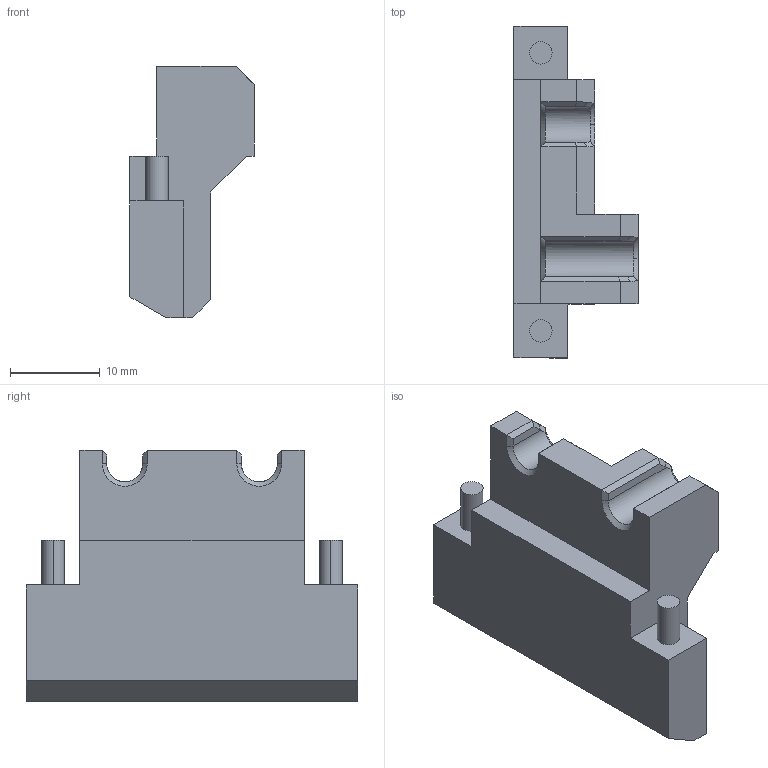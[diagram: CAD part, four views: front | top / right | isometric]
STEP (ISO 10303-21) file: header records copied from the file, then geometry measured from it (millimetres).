
FILE_DESCRIPTION (( 'STEP AP214' ), '1' );
FILE_NAME ('GZ29.19_V1支撑板.STEP', '2021-05-08T06:28:17', ( '微软中国' ), ( 'Microsoft' ), 'SwSTEP 2.0', 'SolidWorks 2017', '' );
FILE_SCHEMA (( 'AUTOMOTIVE_DESIGN' ));
Length unit declared in the file: millimetre
Products named in the file (1): GZ29.19_V1盓傅啣
Bounding box: 13.85 x 37 x 28 mm (x, y, z)
Volume: 6630.1 mm3; surface area: 2898.8 mm2
Topology: 1 solids, 1 shells, 60 faces, 152 edges, 96 vertices
Faces by surface type: plane 44, cone 6, cylinder 6, bspline 4
Entity records: 1934 total; most frequent: CARTESIAN_POINT 493, ORIENTED_EDGE 304, DIRECTION 266, EDGE_CURVE 152, LINE 112, VECTOR 112, VERTEX_POINT 96, AXIS2_PLACEMENT_3D 77
